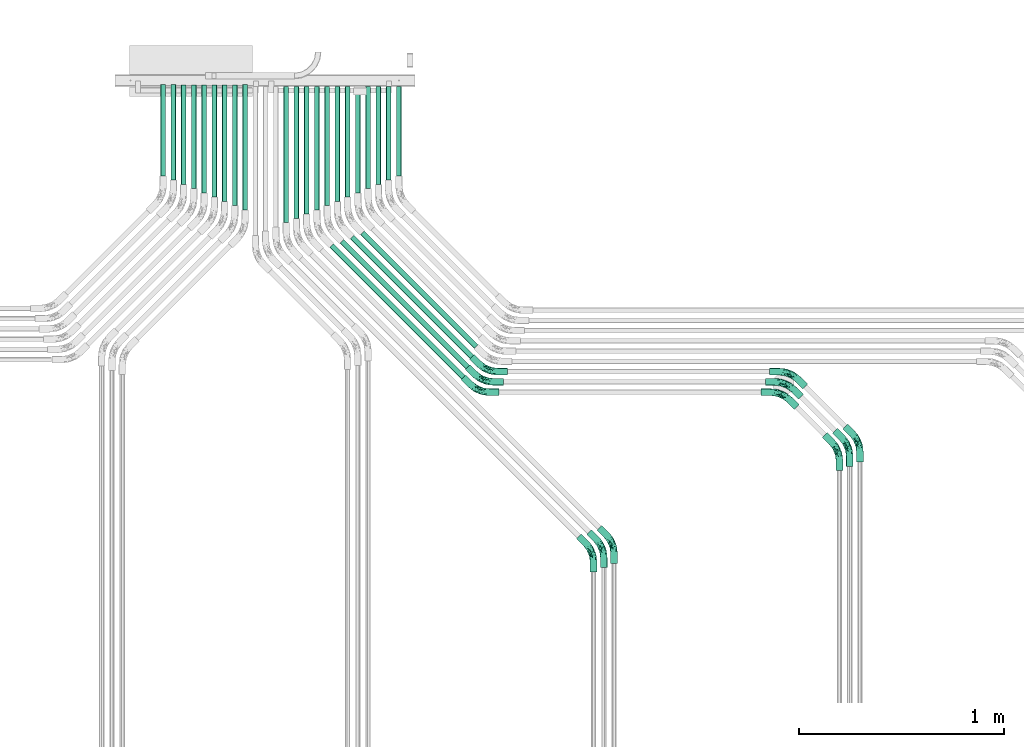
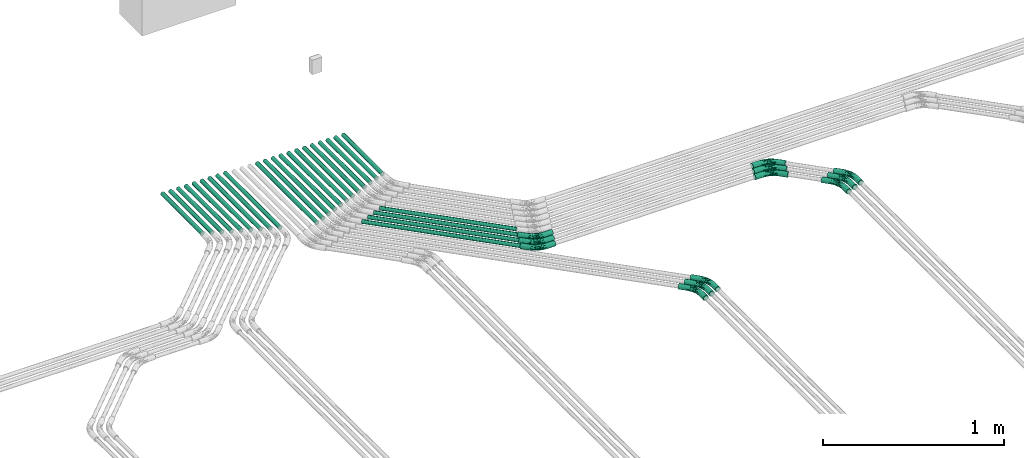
# One storey, part 17 of 51: 25 flow segments, 12 flow fittings.
"""IFC2X3 building model written with IfcOpenShell, lengths in millimetres."""

from ifc_helpers import new_model, entity, si_unit, converted_unit, derived_unit, direction, frame, origin_with_axes, origin_2d_with_axis, place, context, subcontext, project, spatial, hollow_circle, extrude, open_shell, surface_model, source, transform, mapped, type_object, element, save


model = new_model("IFC2X3")

# Units and contexts
model_context = context("Model", 3, precision=0.01, world=frame((0.0, 4.29681676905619e-09, 0.0)), true_north=direction((4.01073788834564e-13, 1.0)))
plan_context = context("Plan", 3, precision=0.01, world=frame((0.0, 4.29681676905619e-09, 0.0)), true_north=direction((4.01073788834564e-13, 1.0)))
body_context = subcontext(model_context, "Body", "Model", "MODEL_VIEW")
ifc_project = project(units=[converted_unit("PLANEANGLEUNIT", "DEGREE", entity("IfcPositiveLengthMeasure", 0.0174532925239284), si_unit("PLANEANGLEUNIT", "RADIAN"), dimensions=[0, 0, 0, 0, 0, 0, 0]), si_unit("AREAUNIT", "SQUARE_METRE"), si_unit("LENGTHUNIT", "METRE", prefix="MILLI"), si_unit("MASSUNIT", "GRAM", prefix="KILO"), si_unit("POWERUNIT", "WATT"), si_unit("PRESSUREUNIT", "PASCAL"), si_unit("FORCEUNIT", "NEWTON", prefix="KILO"), si_unit("ELECTRICVOLTAGEUNIT", "VOLT"), si_unit("ELECTRICCURRENTUNIT", "AMPERE"), si_unit("THERMODYNAMICTEMPERATUREUNIT", "DEGREE_CELSIUS"), si_unit("TIMEUNIT", "SECOND"), si_unit("VOLUMEUNIT", "CUBIC_METRE"), derived_unit("LINEARVELOCITYUNIT", [(si_unit("LENGTHUNIT", "METRE"), 1), (si_unit("TIMEUNIT", "SECOND"), -1)]), derived_unit("VOLUMETRICFLOWRATEUNIT", [(si_unit("VOLUMEUNIT", "CUBIC_METRE"), 1), (si_unit("TIMEUNIT", "SECOND"), -1)]), derived_unit("THERMALTRANSMITTANCEUNIT", [(si_unit("POWERUNIT", "WATT"), 1), (si_unit("THERMODYNAMICTEMPERATUREUNIT", "KELVIN"), -1), (si_unit("AREAUNIT", "SQUARE_METRE"), -1)]), derived_unit("SOUNDPRESSUREUNIT", [(si_unit("PRESSUREUNIT", "PASCAL"), 1)])], contexts=[model_context, plan_context])

# Site, building, storey
site_placement = place(None, frame((0.0, -4.29681676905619e-09, 0.0), z_axis=(0.0, 0.0, 1.0), x_axis=(1.0, 0.0, 0.0)))
site = spatial("IfcSite", under=ifc_project, at=site_placement, Name="ENGM", CompositionType="ELEMENT")
building_placement = place(site_placement, frame((0.0, 4.29681676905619e-09, 0.0), z_axis=(0.0, 0.0, 1.0), x_axis=(1.0, 0.0, 0.0)))
building = spatial("IfcBuilding", under=site, at=building_placement, Name="TI", CompositionType="ELEMENT")
storey_placement = place(building_placement, frame((0.0, 0.0, 210900.0), z_axis=(0.0, 0.0, 1.0), x_axis=(1.0, 0.0, 0.0)))
storey = spatial("IfcBuildingStorey", under=building, at=storey_placement, Name="Nivå F", CompositionType="ELEMENT", Elevation=210900.0)

# Flow fittings
cable_carrier_fitting_type = type_object("IfcCableCarrierFittingType", Name="Trekkerør, glatt bend", PredefinedType="BEND")
shared_shape_1 = source(origin_with_axes(), body_context, "Body", "SurfaceModel", [
    surface_model("IfcShellBasedSurfaceModel", [(-101.90646, 8.46055, -14.6541), (-101.90646, 4.3795, -16.34452), (-101.90646, 0.0, -16.92109), (-101.90646, 14.6541, -8.46055), (-101.90646, -8.46055, -14.6541), (-101.90646, 11.96502, -11.96502), (-101.90646, -16.92109, 0.0), (-101.90646, -16.34452, 4.3795), (-101.90646, -11.96502, -11.96502), (-101.90646, -14.6541, -8.46055), (-101.90646, -4.3795, -16.34452), (-101.90646, -16.34452, -4.3795), (-101.90646, 16.92109, 0.0), (-101.90646, 16.34452, -4.3795), (-101.90646, 16.34452, 4.3795), (-101.90646, 14.6541, 8.46055), (-101.90646, 8.46055, 14.6541), (-101.90646, 11.96502, 11.96502), (-101.90646, 0.0, 16.92109), (-101.90646, 4.3795, 16.34452), (-101.90646, -11.96502, 11.96502), (-101.90646, -8.46055, 14.6541), (-101.90646, -14.6541, 8.46055), (-101.90646, -4.3795, 16.34452), (-54.58849, -16.92109, 0.0), (-54.58849, -16.34452, 4.3795), (-54.58849, -14.6541, 8.46055), (-54.58849, -11.96502, 11.96502), (-54.58849, -8.46055, 14.6541), (-54.58849, -4.3795, 16.34452), (-54.58849, 0.0, 16.92109), (-54.58849, 4.3795, 16.34452), (-54.58849, 8.46055, 14.6541), (-54.58849, 11.96502, 11.96502), (-54.58849, 14.6541, 8.46055), (-54.58849, 16.34452, 4.3795), (-54.58849, 16.92109, 0.0), (-54.58849, 16.34452, -4.3795), (-54.58849, 14.6541, -8.46055), (-54.58849, 11.96502, -11.96502), (-54.58849, 8.46055, -14.6541), (-54.58849, 4.3795, -16.34452), (-54.58849, 0.0, -16.92109), (-54.58849, -4.3795, -16.34452), (-54.58849, -8.46055, -14.6541), (-54.58849, -11.96502, -11.96502), (-54.58849, -14.6541, -8.46055), (-54.58849, -16.34452, -4.3795), (10.9245, -1.31078, 3.47544), (-13.36235, -10.76027, 3.27049), (-16.09967, -11.85394, 0.0), (41.69667, 35.50312, 16.34452), (38.59989, 38.59989, 16.92109), (22.26214, 21.90343, 16.76352), (-19.66365, -2.12805, 15.57779), (-29.58477, -8.16493, 13.36262), (-20.60685, -9.47816, 10.19127), (-34.07223, 17.39409, 6.62821), (-10.25807, 24.76518, 5.65746), (-29.40446, 19.36118, 3.4046), (-3.22837, 7.79397, 16.74683), (-31.22977, -0.25365, 16.76352), (35.50312, 41.69667, 16.34452), (32.61738, 44.5824, 14.6541), (17.47707, 29.1678, 15.66764), (-16.62388, 19.5721, 10.43045), (-25.92736, 13.63005, 13.4985), (5.09993, 25.84703, 13.50914), (-21.17216, 6.44783, 16.79403), (19.76619, 3.00218, 0.0), (-6.56017, 15.83764, 15.71089), (-32.9829, 8.26659, 15.66764), (19.50033, 6.79523, 10.18462), (48.96191, 28.23788, 8.46055), (47.06044, 30.13935, 11.96502), (-0.14544, 0.35113, 13.28643), (-24.85868, 20.8351, 0.0), (44.5824, 32.61738, 14.6541), (26.69306, 15.14611, 13.36262), (8.9424, 34.00903, 7.47137), (8.93562, 35.31889, 4.60583), (25.73601, 8.11548, 6.36012), (-6.07752, -7.50254, 6.29064), (28.23788, 48.96191, 8.46055), (10.0687, 32.56851, 10.38353), (30.13935, 47.06044, 11.96502), (-30.89964, -14.04008, 5.64535), (16.01237, 12.75836, 15.5789), (12.05401, 20.50658, 16.79305), (50.15722, 27.04257, 4.3795), (50.56491, 26.63487, 0.0), (32.88314, 11.79305, 2.69799), (2.8451, 32.31038, 0.0), (26.63487, 50.56491, 0.0), (27.04257, 50.15722, 4.3795), (-32.9829, 8.26659, -15.66764), (16.55602, 18.09298, -16.75967), (38.59989, 38.59989, -16.92109), (41.69667, 35.50312, -16.34452), (30.13935, 47.06044, -11.96502), (32.61738, 44.5824, -14.6541), (8.69552, 27.97131, -13.4985), (-6.56017, 15.83764, -15.71089), (-21.88281, 14.67041, -13.50914), (-31.29267, 18.65579, -4.60583), (-30.37125, 17.72478, -7.47137), (-10.25807, 24.76517, -5.65746), (-1.59965, 3.86188, -15.54749), (17.63726, 9.2923, -13.33594), (-19.1381, -5.92521, -13.33619), (-2.08471, 25.59442, -10.43045), (-30.14906, 15.90977, -10.38353), (-24.73941, 5.56629, -16.79215), (10.41167, 19.53028, -16.79403), (-18.36618, -11.17146, -6.33871), (-28.92763, -11.20296, -10.21852), (-19.67101, 2.27248, -16.75686), (-22.81878, -13.17372, -3.2081), (17.47707, 29.1678, -15.66764), (-30.36783, -4.42984, -15.59506), (24.60567, 18.34093, -15.59506), (35.50312, 41.69667, -16.34452), (7.10167, 34.48251, -3.4046), (27.04257, 50.15722, -4.3795), (44.5824, 32.61738, -14.6541), (47.06044, 30.13935, -11.96502), (28.23788, 48.96191, -8.46055), (11.79322, 36.39219, -6.62821), (1.03493, -2.49855, -10.11808), (48.96191, 28.23788, -8.46055), (28.37661, 12.53324, -10.21852), (20.88626, 5.08744, -6.33871), (25.45054, 6.82009, -3.2081), (2.19574, -5.30098, -3.30061), (50.15722, 27.04257, -4.3795), (60.50143, 83.61607, -4.3795), (72.05875, 72.05875, -16.92109), (68.96197, 75.15552, -16.34452), (66.07624, 78.04126, -14.6541), (63.5982, 80.51929, -11.96502), (61.69674, 82.42076, -8.46055), (75.15552, 68.96197, -16.34452), (80.51929, 63.5982, -11.96502), (78.04126, 66.07624, -14.6541), (83.61607, 60.50143, -4.3795), (82.42076, 61.69674, -8.46055), (83.61607, 60.50143, 4.3795), (84.02377, 60.09373, 0.0), (75.15552, 68.96197, 16.34452), (60.50143, 83.61607, 4.3795), (61.69674, 82.42076, 8.46055), (66.07624, 78.04126, 14.6541), (72.05875, 72.05875, 16.92109), (63.5982, 80.51929, 11.96502), (68.96197, 75.15552, 16.34452), (80.51929, 63.5982, 11.96502), (82.42076, 61.69674, 8.46055), (78.04126, 66.07624, 14.6541), (60.09373, 84.02377, 0.0)], [open_shell([[[0, 1, 2]], [[3, 0, 2]], [[4, 3, 2]], [[5, 0, 3]], [[3, 6, 7]], [[8, 9, 4]], [[2, 10, 4]], [[9, 11, 4]], [[11, 3, 4]], [[3, 11, 6]], [[12, 13, 3]], [[12, 7, 14]], [[14, 7, 15]], [[16, 17, 18]], [[15, 18, 17]], [[18, 19, 16]], [[20, 21, 22]], [[15, 7, 22]], [[23, 18, 21]], [[15, 22, 21]], [[15, 21, 18]], [[3, 7, 12]], [[7, 24, 25]], [[26, 22, 25]], [[21, 27, 28]], [[26, 27, 20]], [[23, 28, 29]], [[24, 7, 6]], [[25, 22, 7]], [[26, 20, 22]], [[27, 21, 20]], [[23, 21, 28]], [[29, 18, 23]], [[29, 30, 18]], [[16, 31, 32]], [[33, 17, 32]], [[14, 34, 35]], [[33, 34, 15]], [[12, 35, 36]], [[31, 19, 30]], [[31, 16, 19]], [[30, 19, 18]], [[32, 17, 16]], [[33, 15, 17]], [[14, 15, 34]], [[35, 12, 14]], [[13, 36, 37]], [[38, 3, 37]], [[0, 39, 40]], [[38, 39, 5]], [[1, 40, 41]], [[36, 13, 12]], [[37, 3, 13]], [[38, 5, 3]], [[39, 0, 5]], [[1, 0, 40]], [[41, 2, 1]], [[41, 42, 2]], [[4, 43, 44]], [[45, 8, 44]], [[11, 46, 47]], [[45, 46, 9]], [[6, 47, 24]], [[43, 10, 42]], [[43, 4, 10]], [[42, 10, 2]], [[44, 8, 4]], [[45, 9, 8]], [[11, 9, 46]], [[47, 6, 11]], [[48, 49, 50]], [[49, 24, 50]], [[51, 52, 53]], [[29, 28, 54]], [[27, 55, 28]], [[56, 27, 26]], [[57, 58, 59]], [[60, 61, 54]], [[61, 30, 29]], [[62, 63, 64]], [[65, 66, 67]], [[31, 30, 68]], [[48, 50, 69]], [[67, 66, 70]], [[33, 32, 66]], [[65, 58, 57]], [[71, 32, 31]], [[72, 73, 74]], [[56, 72, 75]], [[59, 76, 36]], [[74, 77, 78]], [[36, 35, 59]], [[58, 79, 80]], [[81, 72, 82]], [[70, 71, 68]], [[83, 84, 85]], [[25, 49, 86]], [[34, 33, 65]], [[87, 77, 51]], [[54, 87, 60]], [[72, 56, 82]], [[88, 70, 68]], [[72, 81, 73]], [[73, 81, 89]], [[88, 62, 64]], [[78, 72, 74]], [[60, 88, 68]], [[90, 89, 91]], [[48, 81, 82]], [[55, 56, 75]], [[84, 67, 85]], [[59, 92, 76]], [[26, 86, 56]], [[92, 80, 93]], [[75, 78, 87]], [[80, 79, 94]], [[87, 51, 53]], [[70, 64, 67]], [[61, 68, 30]], [[65, 84, 79]], [[60, 53, 88]], [[67, 63, 85]], [[88, 52, 62]], [[65, 33, 66]], [[75, 87, 54]], [[91, 81, 48]], [[66, 32, 71]], [[55, 54, 28]], [[79, 84, 83]], [[67, 84, 65]], [[56, 55, 27]], [[54, 55, 75]], [[87, 78, 77]], [[72, 78, 75]], [[94, 79, 83]], [[65, 79, 58]], [[93, 80, 94]], [[92, 58, 80]], [[54, 61, 29]], [[68, 61, 60]], [[88, 53, 52]], [[87, 53, 60]], [[48, 82, 49]], [[91, 48, 69]], [[90, 91, 69]], [[81, 91, 89]], [[86, 49, 82]], [[24, 49, 25]], [[56, 86, 82]], [[26, 25, 86]], [[68, 71, 31]], [[66, 71, 70]], [[67, 64, 63]], [[88, 64, 70]], [[57, 35, 34]], [[92, 59, 58]], [[35, 57, 59]], [[65, 57, 34]], [[40, 95, 41]], [[96, 97, 98]], [[99, 100, 101]], [[102, 95, 103]], [[76, 104, 36]], [[104, 105, 37]], [[104, 106, 105]], [[107, 108, 109]], [[105, 110, 111]], [[40, 39, 103]], [[110, 99, 101]], [[112, 102, 113]], [[114, 46, 115]], [[116, 113, 96]], [[24, 47, 117]], [[110, 101, 103]], [[114, 47, 46]], [[101, 100, 118]], [[119, 44, 43]], [[112, 41, 95]], [[46, 45, 115]], [[45, 44, 109]], [[107, 119, 116]], [[113, 116, 112]], [[96, 98, 120]], [[113, 121, 97]], [[122, 76, 92]], [[112, 116, 42]], [[93, 123, 122]], [[124, 125, 108]], [[43, 42, 116]], [[110, 126, 99]], [[102, 103, 101]], [[106, 122, 127]], [[100, 121, 118]], [[128, 115, 109]], [[109, 44, 119]], [[127, 110, 106]], [[128, 109, 108]], [[113, 102, 118]], [[120, 98, 124]], [[113, 97, 96]], [[129, 130, 125]], [[107, 120, 108]], [[42, 41, 112]], [[107, 116, 96]], [[128, 130, 131]], [[128, 131, 114]], [[69, 132, 90]], [[69, 133, 132]], [[50, 117, 133]], [[133, 117, 114]], [[133, 69, 50]], [[129, 134, 131]], [[130, 108, 125]], [[122, 92, 93]], [[111, 103, 39]], [[38, 111, 39]], [[105, 111, 38]], [[103, 111, 110]], [[109, 115, 45]], [[114, 115, 128]], [[131, 130, 129]], [[108, 130, 128]], [[37, 105, 38]], [[110, 105, 106]], [[36, 104, 37]], [[76, 106, 104]], [[116, 119, 43]], [[109, 119, 107]], [[108, 120, 124]], [[96, 120, 107]], [[114, 131, 133]], [[132, 133, 131]], [[103, 95, 40]], [[112, 95, 102]], [[113, 118, 121]], [[101, 118, 102]], [[24, 117, 50]], [[47, 114, 117]], [[131, 134, 132]], [[90, 132, 134]], [[127, 123, 126]], [[76, 122, 106]], [[123, 127, 122]], [[110, 127, 126]], [[135, 136, 137]], [[135, 137, 138]], [[139, 140, 135]], [[139, 135, 138]], [[136, 135, 141]], [[141, 142, 143]], [[142, 141, 144]], [[142, 144, 145]], [[141, 135, 144]], [[144, 146, 147]], [[144, 135, 148]], [[135, 149, 150]], [[150, 151, 135]], [[151, 152, 135]], [[151, 150, 153]], [[151, 154, 152]], [[146, 155, 156]], [[155, 146, 157]], [[146, 148, 157]], [[146, 144, 148]], [[152, 148, 135]], [[149, 135, 158]], [[89, 147, 146]], [[156, 73, 146]], [[77, 155, 157]], [[156, 155, 74]], [[51, 157, 148]], [[147, 89, 90]], [[146, 73, 89]], [[156, 74, 73]], [[155, 77, 74]], [[51, 77, 157]], [[148, 52, 51]], [[148, 152, 52]], [[63, 154, 151]], [[153, 85, 151]], [[94, 150, 149]], [[153, 150, 83]], [[93, 149, 158]], [[154, 62, 152]], [[154, 63, 62]], [[152, 62, 52]], [[151, 85, 63]], [[153, 83, 85]], [[94, 83, 150]], [[149, 93, 94]], [[93, 158, 135]], [[140, 123, 135]], [[138, 137, 121]], [[139, 138, 99]], [[126, 140, 139]], [[140, 126, 123]], [[123, 93, 135]], [[99, 138, 100]], [[100, 138, 121]], [[137, 97, 121]], [[99, 126, 139]], [[137, 136, 97]], [[124, 141, 143]], [[142, 125, 143]], [[134, 145, 144]], [[142, 145, 129]], [[90, 144, 147]], [[141, 98, 136]], [[141, 124, 98]], [[136, 98, 97]], [[143, 125, 124]], [[142, 129, 125]], [[134, 129, 145]], [[144, 90, 134]]])]),
])
for number, where, z_axis, x_axis, name in (
    (1, (602203.30952, 697946.14175, -56.7999999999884), (0.0, 0.0, 1.0), (0.707097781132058, -0.707115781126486, 0.0), "Trekkerør, glatt bend"),
    (2, (602182.59885, 697896.14175, -56.7999999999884), (0.0, 0.0, 1.0), (0.707097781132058, -0.707115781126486, 0.0), "Trekkerør, glatt bend"),
    (3, (602161.88817, 697846.14175, -56.7999999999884), (0.0, 0.0, 1.0), (0.707097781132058, -0.707115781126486, 0.0), "Trekkerør, glatt bend"),
    (4, (603685.35118, 697946.14175, -56.7999999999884), (0.0, 0.0, 1.0), (-0.707106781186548, 0.707106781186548, 0.0), "Trekkerør, glatt bend"),
    (5, (603664.64051, 697896.14175, -56.7999999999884), (0.0, 0.0, 1.0), (-0.707106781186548, 0.707106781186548, 0.0), "Trekkerør, glatt bend"),
    (6, (603643.92983, 697846.14175, -56.7999999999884), (0.0, 0.0, 1.0), (-0.707106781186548, 0.707106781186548, 0.0), "Trekkerør, glatt bend"),
    (7, (602725.0, 697070.89788, -56.7999999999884), (0.0, 0.0, 1.0), (0.0, 1.0, 0.0), "Trekkerør, glatt bend"),
    (8, (602775.0, 697091.60856, -56.7999999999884), (0.0, 0.0, 1.0), (0.0, 1.0, 0.0), "Trekkerør, glatt bend"),
    (9, (602825.0, 697112.31924, -56.7999999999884), (0.0, 0.0, 1.0), (0.0, 1.0, 0.0), "Trekkerør, glatt bend"),
    (10, (603924.59, 697565.48158, -56.7999999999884), (0.0, 0.0, 1.0), (0.0, 1.0, 0.0), "Trekkerør, glatt bend"),
    (11, (603974.59, 697586.19225, -56.7999999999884), (0.0, 0.0, 1.0), (0.0, 1.0, 0.0), "Trekkerør, glatt bend"),
    (12, (604024.59, 697606.90293, -56.7999999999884), (0.0, 0.0, 1.0), (0.0, 1.0, 0.0), "Trekkerør, glatt bend"),
):
    element("IfcFlowFitting", number, at=place(storey_placement, frame(where, z_axis=z_axis, x_axis=x_axis)), inside=storey, type_object=cable_carrier_fitting_type, Name=name, context=body_context, shape_type="MappedRepresentation", body=[
        mapped(shared_shape_1, transform((0.0, 0.0, 0.0), scale=1.0)),
    ])

# Flow segments
cable_carrier_segment_type = type_object("IfcCableCarrierSegmentType", Name="Trekkerør, korrugert", PredefinedType="CONDUITSEGMENT")
shared_shape_2 = source(origin_with_axes(), body_context, "Body", "SweptSolid", [
    extrude(hollow_circle(Radius=12.5, WallThickness=2.0, at=origin_2d_with_axis()), frame((0.0, 0.0, 0.0), z_axis=(1.0, 0.0, 0.0), x_axis=(0.0, 1.0, 0.0)), (0.0, 0.0, 1.0), 436.6),
])
flow_segment_1_placement = place(storey_placement, frame((601774.75961, 698900.86219, -56.7999999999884), z_axis=(0.0, 0.0, 1.0), x_axis=(0.0, 1.0, 0.0)))
element("IfcFlowSegment", 13, at=flow_segment_1_placement, inside=storey, type_object=cable_carrier_segment_type, Name="Trekkerør, korrugert", context=body_context, shape_type="MappedRepresentation", body=[
    mapped(shared_shape_2, transform((0.0, 0.0, 0.0), scale=1.0)),
])
shared_shape_3 = source(origin_with_axes(), body_context, "Body", "SweptSolid", [
    extrude(hollow_circle(Radius=12.5, WallThickness=2.0, at=origin_2d_with_axis()), frame((0.0, 0.0, 0.0), z_axis=(1.0, 0.0, 0.0), x_axis=(0.0, 1.0, 0.0)), (0.0, 0.0, 1.0), 457.3),
])
flow_segment_2_placement = place(storey_placement, frame((601724.75961, 698880.15151, -56.7999999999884), z_axis=(0.0, 0.0, 1.0), x_axis=(0.0, 1.0, 0.0)))
element("IfcFlowSegment", 14, at=flow_segment_2_placement, inside=storey, type_object=cable_carrier_segment_type, Name="Trekkerør, korrugert", context=body_context, shape_type="MappedRepresentation", body=[
    mapped(shared_shape_3, transform((0.0, 0.0, 0.0), scale=1.0)),
])
shared_shape_4 = source(origin_with_axes(), body_context, "Body", "SweptSolid", [
    extrude(hollow_circle(Radius=12.5, WallThickness=2.0, at=origin_2d_with_axis()), frame((0.0, 0.0, 0.0), z_axis=(1.0, 0.0, 0.0), x_axis=(0.0, 1.0, 0.0)), (0.0, 0.0, 1.0), 478.1),
])
flow_segment_3_placement = place(storey_placement, frame((601674.75961, 698859.44084, -56.7999999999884), z_axis=(0.0, 0.0, 1.0), x_axis=(0.0, 1.0, 0.0)))
element("IfcFlowSegment", 15, at=flow_segment_3_placement, inside=storey, type_object=cable_carrier_segment_type, Name="Trekkerør, korrugert", context=body_context, shape_type="MappedRepresentation", body=[
    mapped(shared_shape_4, transform((0.0, 0.0, 0.0), scale=1.0)),
])
shared_shape_5 = source(origin_with_axes(), body_context, "Body", "SweptSolid", [
    extrude(hollow_circle(Radius=12.5, WallThickness=2.0, at=origin_2d_with_axis()), frame((0.0, 0.0, 0.0), z_axis=(1.0, 0.0, 0.0), x_axis=(0.0, 1.0, 0.0)), (0.0, 0.0, 1.0), 498.8),
])
flow_segment_4_placement = place(storey_placement, frame((601624.75961, 698838.73016, -56.7999999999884), z_axis=(0.0, 0.0, 1.0), x_axis=(0.0, 1.0, 0.0)))
element("IfcFlowSegment", 16, at=flow_segment_4_placement, inside=storey, type_object=cable_carrier_segment_type, Name="Trekkerør, korrugert", context=body_context, shape_type="MappedRepresentation", body=[
    mapped(shared_shape_5, transform((0.0, 0.0, 0.0), scale=1.0)),
])
shared_shape_6 = source(origin_with_axes(), body_context, "Body", "SweptSolid", [
    extrude(hollow_circle(Radius=12.5, WallThickness=2.0, at=origin_2d_with_axis()), frame((0.0, 0.0, 0.0), z_axis=(1.0, 0.0, 0.0), x_axis=(0.0, 1.0, 0.0)), (0.0, 0.0, 1.0), 519.5),
])
flow_segment_5_placement = place(storey_placement, frame((601574.75961, 698818.01948, -56.7999999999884), z_axis=(0.0, 0.0, 1.0), x_axis=(0.0, 1.0, 0.0)))
element("IfcFlowSegment", 17, at=flow_segment_5_placement, inside=storey, type_object=cable_carrier_segment_type, Name="Trekkerør, korrugert", context=body_context, shape_type="MappedRepresentation", body=[
    mapped(shared_shape_6, transform((0.0, 0.0, 0.0), scale=1.0)),
])
shared_shape_7 = source(origin_with_axes(), body_context, "Body", "SweptSolid", [
    extrude(hollow_circle(Radius=12.5, WallThickness=2.0, at=origin_2d_with_axis()), frame((0.0, 0.0, 0.0), z_axis=(1.0, 0.0, 0.0), x_axis=(0.0, 1.0, 0.0)), (0.0, 0.0, 1.0), 785.1),
])
flow_segment_6_placement = place(storey_placement, frame((602151.96145, 698068.2005, -56.7999999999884), z_axis=(0.0, 0.0, 1.0), x_axis=(-0.707106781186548, 0.707106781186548, 0.0)))
element("IfcFlowSegment", 18, at=flow_segment_6_placement, inside=storey, type_object=cable_carrier_segment_type, Name="Trekkerør, korrugert", context=body_context, shape_type="MappedRepresentation", body=[
    mapped(shared_shape_7, transform((0.0, 0.0, 0.0), scale=1.0)),
])
shared_shape_8 = source(origin_with_axes(), body_context, "Body", "SweptSolid", [
    extrude(hollow_circle(Radius=12.5, WallThickness=2.0, at=origin_2d_with_axis()), frame((0.0, 0.0, 0.0), z_axis=(1.0, 0.0, 0.0), x_axis=(0.0, 1.0, 0.0)), (0.0, 0.0, 1.0), 540.2),
])
flow_segment_7_placement = place(storey_placement, frame((601524.75961, 698797.3088, -56.7999999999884), z_axis=(0.0, 0.0, 1.0), x_axis=(0.0, 1.0, 0.0)))
element("IfcFlowSegment", 19, at=flow_segment_7_placement, inside=storey, type_object=cable_carrier_segment_type, Name="Trekkerør, korrugert", context=body_context, shape_type="MappedRepresentation", body=[
    mapped(shared_shape_8, transform((0.0, 0.0, 0.0), scale=1.0)),
])
shared_shape_9 = source(origin_with_axes(), body_context, "Body", "SweptSolid", [
    extrude(hollow_circle(Radius=12.5, WallThickness=2.0, at=origin_2d_with_axis()), frame((0.0, 0.0, 0.0), z_axis=(1.0, 0.0, 0.0), x_axis=(0.0, 1.0, 0.0)), (0.0, 0.0, 1.0), 826.5),
])
flow_segment_8_placement = place(storey_placement, frame((602131.25077, 698018.2005, -56.7999999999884), z_axis=(0.0, 0.0, 1.0), x_axis=(-0.707106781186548, 0.707106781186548, 0.0)))
element("IfcFlowSegment", 20, at=flow_segment_8_placement, inside=storey, type_object=cable_carrier_segment_type, Name="Trekkerør, korrugert", context=body_context, shape_type="MappedRepresentation", body=[
    mapped(shared_shape_9, transform((0.0, 0.0, 0.0), scale=1.0)),
])
shared_shape_10 = source(origin_with_axes(), body_context, "Body", "SweptSolid", [
    extrude(hollow_circle(Radius=12.5, WallThickness=2.0, at=origin_2d_with_axis()), frame((0.0, 0.0, 0.0), z_axis=(1.0, 0.0, 0.0), x_axis=(0.0, 1.0, 0.0)), (0.0, 0.0, 1.0), 560.9),
])
flow_segment_9_placement = place(storey_placement, frame((601474.75961, 698776.59812, -56.7999999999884), z_axis=(0.0, 0.0, 1.0), x_axis=(0.0, 1.0, 0.0)))
element("IfcFlowSegment", 21, at=flow_segment_9_placement, inside=storey, type_object=cable_carrier_segment_type, Name="Trekkerør, korrugert", context=body_context, shape_type="MappedRepresentation", body=[
    mapped(shared_shape_10, transform((0.0, 0.0, 0.0), scale=1.0)),
])
shared_shape_11 = source(origin_with_axes(), body_context, "Body", "SweptSolid", [
    extrude(hollow_circle(Radius=12.5, WallThickness=2.0, at=origin_2d_with_axis()), frame((0.0, 0.0, 0.0), z_axis=(1.0, 0.0, 0.0), x_axis=(0.0, 1.0, 0.0)), (0.0, 0.0, 1.0), 867.9),
])
flow_segment_10_placement = place(storey_placement, frame((602110.5401, 697968.2005, -56.7999999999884), z_axis=(0.0, 0.0, 1.0), x_axis=(-0.707106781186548, 0.707106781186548, 0.0)))
element("IfcFlowSegment", 22, at=flow_segment_10_placement, inside=storey, type_object=cable_carrier_segment_type, Name="Trekkerør, korrugert", context=body_context, shape_type="MappedRepresentation", body=[
    mapped(shared_shape_11, transform((0.0, 0.0, 0.0), scale=1.0)),
])
shared_shape_12 = source(origin_with_axes(), body_context, "Body", "SweptSolid", [
    extrude(hollow_circle(Radius=12.5, WallThickness=2.0, at=origin_2d_with_axis()), frame((0.0, 0.0, 0.0), z_axis=(1.0, 0.0, 0.0), x_axis=(0.0, 1.0, 0.0)), (0.0, 0.0, 1.0), 581.6),
])
flow_segment_11_placement = place(storey_placement, frame((601424.75961, 698755.88744, -56.7999999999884), z_axis=(0.0, 0.0, 1.0), x_axis=(0.0, 1.0, 0.0)))
element("IfcFlowSegment", 23, at=flow_segment_11_placement, inside=storey, type_object=cable_carrier_segment_type, Name="Trekkerør, korrugert", context=body_context, shape_type="MappedRepresentation", body=[
    mapped(shared_shape_12, transform((0.0, 0.0, 0.0), scale=1.0)),
])
shared_shape_13 = source(origin_with_axes(), body_context, "Body", "SweptSolid", [
    extrude(hollow_circle(Radius=12.5, WallThickness=2.0, at=origin_2d_with_axis()), frame((0.0, 0.0, 0.0), z_axis=(1.0, 0.0, 0.0), x_axis=(0.0, 1.0, 0.0)), (0.0, 0.0, 1.0), 909.4),
])
flow_segment_12_placement = place(storey_placement, frame((602089.82942, 697918.2005, -56.7999999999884), z_axis=(0.0, 0.0, 1.0), x_axis=(-0.707106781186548, 0.707106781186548, 0.0)))
element("IfcFlowSegment", 24, at=flow_segment_12_placement, inside=storey, type_object=cable_carrier_segment_type, Name="Trekkerør, korrugert", context=body_context, shape_type="MappedRepresentation", body=[
    mapped(shared_shape_13, transform((0.0, 0.0, 0.0), scale=1.0)),
])
shared_shape_14 = source(origin_with_axes(), body_context, "Body", "SweptSolid", [
    extrude(hollow_circle(Radius=12.5, WallThickness=2.0, at=origin_2d_with_axis()), frame((0.0, 0.0, 0.0), z_axis=(1.0, 0.0, 0.0), x_axis=(0.0, 1.0, 0.0)), (0.0, 0.0, 1.0), 602.3),
])
flow_segment_13_placement = place(storey_placement, frame((601374.75961, 698735.17677, -56.7999999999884), z_axis=(0.0, 0.0, 1.0), x_axis=(0.0, 1.0, 0.0)))
element("IfcFlowSegment", 25, at=flow_segment_13_placement, inside=storey, type_object=cable_carrier_segment_type, Name="Trekkerør, korrugert", context=body_context, shape_type="MappedRepresentation", body=[
    mapped(shared_shape_14, transform((0.0, 0.0, 0.0), scale=1.0)),
])
shared_shape_15 = source(origin_with_axes(), body_context, "Body", "SweptSolid", [
    extrude(hollow_circle(Radius=12.5, WallThickness=2.0, at=origin_2d_with_axis()), frame((0.0, 0.0, 0.0), z_axis=(1.0, 0.0, 0.0), x_axis=(0.0, 1.0, 0.0)), (0.0, 0.0, 1.0), 623.0),
])
flow_segment_14_placement = place(storey_placement, frame((601324.75961, 698714.46609, -56.7999999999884), z_axis=(0.0, 0.0, 1.0), x_axis=(0.0, 1.0, 0.0)))
element("IfcFlowSegment", 26, at=flow_segment_14_placement, inside=storey, type_object=cable_carrier_segment_type, Name="Trekkerør, korrugert", context=body_context, shape_type="MappedRepresentation", body=[
    mapped(shared_shape_15, transform((0.0, 0.0, 0.0), scale=1.0)),
])
shared_shape_16 = source(origin_with_axes(), body_context, "Body", "SweptSolid", [
    extrude(hollow_circle(Radius=12.5, WallThickness=2.0, at=origin_2d_with_axis()), frame((0.0, 0.0, 0.0), z_axis=(1.0, 0.0, 0.0), x_axis=(0.0, 1.0, 0.0)), (0.0, 0.0, 1.0), 643.7),
])
flow_segment_15_placement = place(storey_placement, frame((601274.75961, 698693.75541, -56.7999999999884), z_axis=(0.0, 0.0, 1.0), x_axis=(0.0, 1.0, 0.0)))
element("IfcFlowSegment", 27, at=flow_segment_15_placement, inside=storey, type_object=cable_carrier_segment_type, Name="Trekkerør, korrugert", context=body_context, shape_type="MappedRepresentation", body=[
    mapped(shared_shape_16, transform((0.0, 0.0, 0.0), scale=1.0)),
])
shared_shape_17 = source(origin_with_axes(), body_context, "Body", "SweptSolid", [
    extrude(hollow_circle(Radius=12.5, WallThickness=2.0, at=origin_2d_with_axis()), frame((0.0, 0.0, 0.0), z_axis=(1.0, 0.0, 0.0), x_axis=(0.0, 1.0, 0.0)), (0.0, 0.0, 1.0), 664.5),
])
flow_segment_16_placement = place(storey_placement, frame((601224.75961, 698673.04473, -56.7999999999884), z_axis=(0.0, 0.0, 1.0), x_axis=(0.0, 1.0, 0.0)))
element("IfcFlowSegment", 28, at=flow_segment_16_placement, inside=storey, type_object=cable_carrier_segment_type, Name="Trekkerør, korrugert", context=body_context, shape_type="MappedRepresentation", body=[
    mapped(shared_shape_17, transform((0.0, 0.0, 0.0), scale=1.0)),
])
shared_shape_18 = source(origin_with_axes(), body_context, "Body", "SweptSolid", [
    extrude(hollow_circle(Radius=12.5, WallThickness=2.0, at=origin_2d_with_axis()), frame((0.0, 0.0, 0.0), z_axis=(1.0, 0.0, 0.0), x_axis=(0.0, 1.0, 0.0)), (0.0, 0.0, 1.0), 444.5),
])
flow_segment_17_placement = place(storey_placement, frame((600624.75961, 698901.39219, -56.7999999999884), z_axis=(0.0, 0.0, 1.0), x_axis=(0.0, 1.0, 0.0)))
element("IfcFlowSegment", 29, at=flow_segment_17_placement, inside=storey, type_object=cable_carrier_segment_type, Name="Trekkerør, korrugert", context=body_context, shape_type="MappedRepresentation", body=[
    mapped(shared_shape_18, transform((0.0, 0.0, 0.0), scale=1.0)),
])
shared_shape_19 = source(origin_with_axes(), body_context, "Body", "SweptSolid", [
    extrude(hollow_circle(Radius=12.5, WallThickness=2.0, at=origin_2d_with_axis()), frame((0.0, 0.0, 0.0), z_axis=(1.0, 0.0, 0.0), x_axis=(0.0, 1.0, 0.0)), (0.0, 0.0, 1.0), 506.6),
])
flow_segment_18_placement = place(storey_placement, frame((600774.75961, 698839.26016, -56.7999999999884), z_axis=(0.0, 0.0, 1.0), x_axis=(0.0, 1.0, 0.0)))
element("IfcFlowSegment", 30, at=flow_segment_18_placement, inside=storey, type_object=cable_carrier_segment_type, Name="Trekkerør, korrugert", context=body_context, shape_type="MappedRepresentation", body=[
    mapped(shared_shape_19, transform((0.0, 0.0, 0.0), scale=1.0)),
])
shared_shape_20 = source(origin_with_axes(), body_context, "Body", "SweptSolid", [
    extrude(hollow_circle(Radius=12.5, WallThickness=2.0, at=origin_2d_with_axis()), frame((0.0, 0.0, 0.0), z_axis=(1.0, 0.0, 0.0), x_axis=(0.0, 1.0, 0.0)), (0.0, 0.0, 1.0), 465.2),
])
flow_segment_19_placement = place(storey_placement, frame((600674.75961, 698880.68151, -56.7999999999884), z_axis=(0.0, 0.0, 1.0), x_axis=(0.0, 1.0, 0.0)))
element("IfcFlowSegment", 31, at=flow_segment_19_placement, inside=storey, type_object=cable_carrier_segment_type, Name="Trekkerør, korrugert", context=body_context, shape_type="MappedRepresentation", body=[
    mapped(shared_shape_20, transform((0.0, 0.0, 0.0), scale=1.0)),
])
shared_shape_21 = source(origin_with_axes(), body_context, "Body", "SweptSolid", [
    extrude(hollow_circle(Radius=12.5, WallThickness=2.0, at=origin_2d_with_axis()), frame((0.0, 0.0, 0.0), z_axis=(1.0, 0.0, 0.0), x_axis=(0.0, 1.0, 0.0)), (0.0, 0.0, 1.0), 485.9),
])
flow_segment_20_placement = place(storey_placement, frame((600724.75961, 698859.97084, -56.7999999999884), z_axis=(0.0, 0.0, 1.0), x_axis=(0.0, 1.0, 0.0)))
element("IfcFlowSegment", 32, at=flow_segment_20_placement, inside=storey, type_object=cable_carrier_segment_type, Name="Trekkerør, korrugert", context=body_context, shape_type="MappedRepresentation", body=[
    mapped(shared_shape_21, transform((0.0, 0.0, 0.0), scale=1.0)),
])
shared_shape_22 = source(origin_with_axes(), body_context, "Body", "SweptSolid", [
    extrude(hollow_circle(Radius=12.5, WallThickness=2.0, at=origin_2d_with_axis()), frame((0.0, 0.0, 0.0), z_axis=(1.0, 0.0, 0.0), x_axis=(0.0, 1.0, 0.0)), (0.0, 0.0, 1.0), 527.3),
])
flow_segment_21_placement = place(storey_placement, frame((600824.75961, 698818.54948, -56.7999999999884), z_axis=(0.0, 0.0, 1.0), x_axis=(0.0, 1.0, 0.0)))
element("IfcFlowSegment", 33, at=flow_segment_21_placement, inside=storey, type_object=cable_carrier_segment_type, Name="Trekkerør, korrugert", context=body_context, shape_type="MappedRepresentation", body=[
    mapped(shared_shape_22, transform((0.0, 0.0, 0.0), scale=1.0)),
])
shared_shape_23 = source(origin_with_axes(), body_context, "Body", "SweptSolid", [
    extrude(hollow_circle(Radius=12.5, WallThickness=2.0, at=origin_2d_with_axis()), frame((0.0, 0.0, 0.0), z_axis=(1.0, 0.0, 0.0), x_axis=(0.0, 1.0, 0.0)), (0.0, 0.0, 1.0), 548.0),
])
flow_segment_22_placement = place(storey_placement, frame((600874.75961, 698797.8388, -56.7999999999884), z_axis=(0.0, 0.0, 1.0), x_axis=(0.0, 1.0, 0.0)))
element("IfcFlowSegment", 34, at=flow_segment_22_placement, inside=storey, type_object=cable_carrier_segment_type, Name="Trekkerør, korrugert", context=body_context, shape_type="MappedRepresentation", body=[
    mapped(shared_shape_23, transform((0.0, 0.0, 0.0), scale=1.0)),
])
shared_shape_24 = source(origin_with_axes(), body_context, "Body", "SweptSolid", [
    extrude(hollow_circle(Radius=12.5, WallThickness=2.0, at=origin_2d_with_axis()), frame((0.0, 0.0, 0.0), z_axis=(1.0, 0.0, 0.0), x_axis=(0.0, 1.0, 0.0)), (0.0, 0.0, 1.0), 610.2),
])
flow_segment_23_placement = place(storey_placement, frame((601024.75961, 698735.70677, -56.7999999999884), z_axis=(0.0, 0.0, 1.0), x_axis=(0.0, 1.0, 0.0)))
element("IfcFlowSegment", 35, at=flow_segment_23_placement, inside=storey, type_object=cable_carrier_segment_type, Name="Trekkerør, korrugert", context=body_context, shape_type="MappedRepresentation", body=[
    mapped(shared_shape_24, transform((0.0, 0.0, 0.0), scale=1.0)),
])
shared_shape_25 = source(origin_with_axes(), body_context, "Body", "SweptSolid", [
    extrude(hollow_circle(Radius=12.5, WallThickness=2.0, at=origin_2d_with_axis()), frame((0.0, 0.0, 0.0), z_axis=(1.0, 0.0, 0.0), x_axis=(0.0, 1.0, 0.0)), (0.0, 0.0, 1.0), 589.4),
])
flow_segment_24_placement = place(storey_placement, frame((600974.75961, 698756.41745, -56.7999999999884), z_axis=(0.0, 0.0, 1.0), x_axis=(0.0, 1.0, 0.0)))
element("IfcFlowSegment", 36, at=flow_segment_24_placement, inside=storey, type_object=cable_carrier_segment_type, Name="Trekkerør, korrugert", context=body_context, shape_type="MappedRepresentation", body=[
    mapped(shared_shape_25, transform((0.0, 0.0, 0.0), scale=1.0)),
])
shared_shape_26 = source(origin_with_axes(), body_context, "Body", "SweptSolid", [
    extrude(hollow_circle(Radius=12.5, WallThickness=2.0, at=origin_2d_with_axis()), frame((0.0, 0.0, 0.0), z_axis=(1.0, 0.0, 0.0), x_axis=(0.0, 1.0, 0.0)), (0.0, 0.0, 1.0), 568.7),
])
flow_segment_25_placement = place(storey_placement, frame((600924.75961, 698777.12812, -56.7999999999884), z_axis=(0.0, 0.0, 1.0), x_axis=(0.0, 1.0, 0.0)))
element("IfcFlowSegment", 37, at=flow_segment_25_placement, inside=storey, type_object=cable_carrier_segment_type, Name="Trekkerør, korrugert", context=body_context, shape_type="MappedRepresentation", body=[
    mapped(shared_shape_26, transform((0.0, 0.0, 0.0), scale=1.0)),
])

save(model, "model.ifc")
